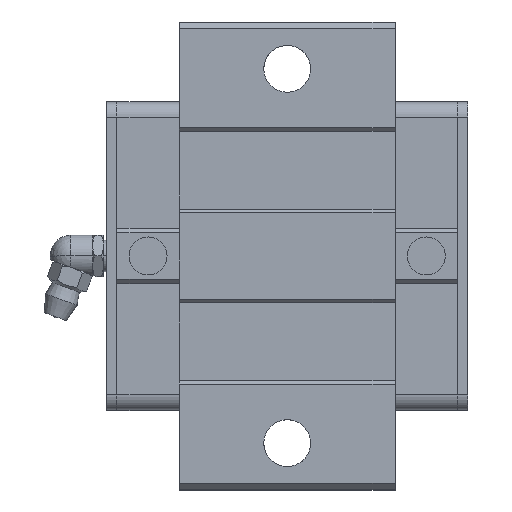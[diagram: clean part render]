
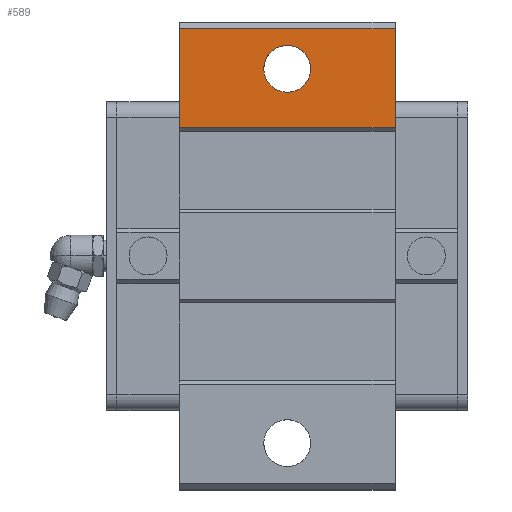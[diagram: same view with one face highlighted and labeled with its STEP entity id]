
A CAD part, top view. The second image highlights one B-rep face of the part: STEP entity #589.
In plain terms, the highlighted planar face has unit normal (0, 0, 1).
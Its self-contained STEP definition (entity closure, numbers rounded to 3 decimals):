
#44=CARTESIAN_POINT('POINT6',(39.25,36.,32.));
#45=VERTEX_POINT('VERTEX6',#44);
#61=CARTESIAN_POINT('POINT8',(30.25,36.,32.));
#62=VERTEX_POINT('VERTEX8',#61);
#69=CARTESIAN_POINT('POS9',(34.75,36.,32.));
#70=DIRECTION('DIR12',(0.,0.,-1.));
#71=DIRECTION('DIR13',(1.,0.,0.));
#72=AXIS2_PLACEMENT_3D('AXIS4',#69,#70,#71);
#73=CIRCLE('ELLIPSE3',#72,4.5);
#74=EDGE_CURVE('EDGE8',#45,#62,#73,.T.);
#85=EDGE_CURVE('EDGE9',#62,#45,#73,.T.);
#524=CARTESIAN_POINT('POINT41',(55.5,24.651,32.));
#525=VERTEX_POINT('VERTEX41',#524);
#532=CARTESIAN_POINT('POINT42',(14.,24.651,32.));
#533=VERTEX_POINT('VERTEX42',#532);
#534=CARTESIAN_POINT('POS61',(14.,24.651,32.));
#535=DIRECTION('DIR85',(1.,0.,0.));
#536=VECTOR('VEC37',#535,1.);
#537=LINE('STRAIGHT37',#534,#536);
#538=EDGE_CURVE('EDGE55',#533,#525,#537,.T.);
#555=ORIENTED_EDGE('COEDGE80',*,*,#74,.T.);
#556=ORIENTED_EDGE('COEDGE81',*,*,#85,.T.);
#557=EDGE_LOOP('NONE',(#555,#556));
#558=FACE_BOUND('LOOP1',#557,.T.);
#559=CARTESIAN_POINT('POINT43',(55.5,43.7,32.));
#560=VERTEX_POINT('VERTEX43',#559);
#561=CARTESIAN_POINT('POS64',(55.5,43.7,32.));
#562=DIRECTION('DIR89',(0.,1.,0.));
#563=VECTOR('VEC39',#562,1.);
#564=LINE('STRAIGHT39',#561,#563);
#565=EDGE_CURVE('EDGE57',#525,#560,#564,.T.);
#566=ORIENTED_EDGE('COEDGE82',*,*,#565,.T.);
#567=CARTESIAN_POINT('POINT44',(14.,43.7,32.));
#568=VERTEX_POINT('VERTEX44',#567);
#569=CARTESIAN_POINT('POS65',(14.,43.7,32.));
#570=DIRECTION('DIR90',(1.,0.,0.));
#571=VECTOR('VEC40',#570,1.);
#572=LINE('STRAIGHT40',#569,#571);
#573=EDGE_CURVE('EDGE58',#568,#560,#572,.T.);
#574=ORIENTED_EDGE('COEDGE83',*,*,#573,.F.);
#575=CARTESIAN_POINT('POS66',(14.,43.7,32.));
#576=DIRECTION('DIR91',(0.,-1.,0.));
#577=VECTOR('VEC41',#576,1.);
#578=LINE('STRAIGHT41',#575,#577);
#579=EDGE_CURVE('EDGE59',#568,#533,#578,.T.);
#580=ORIENTED_EDGE('COEDGE84',*,*,#579,.T.);
#581=ORIENTED_EDGE('COEDGE85',*,*,#538,.T.);
#582=EDGE_LOOP('NONE',(#566,#574,#580,#581));
#583=FACE_BOUND('LOOP1',#582,.T.);
#584=CARTESIAN_POINT('POS67',(14.,24.651,32.));
#585=DIRECTION('DIR92',(0.,0.,1.));
#586=DIRECTION('DIR93',(1.,0.,0.));
#587=AXIS2_PLACEMENT_3D('AXIS26',#584,#585,#586);
#588=PLANE('PLANE13',#587);
#589=ADVANCED_FACE('FACE17',(#558,#583),#588,.T.);
